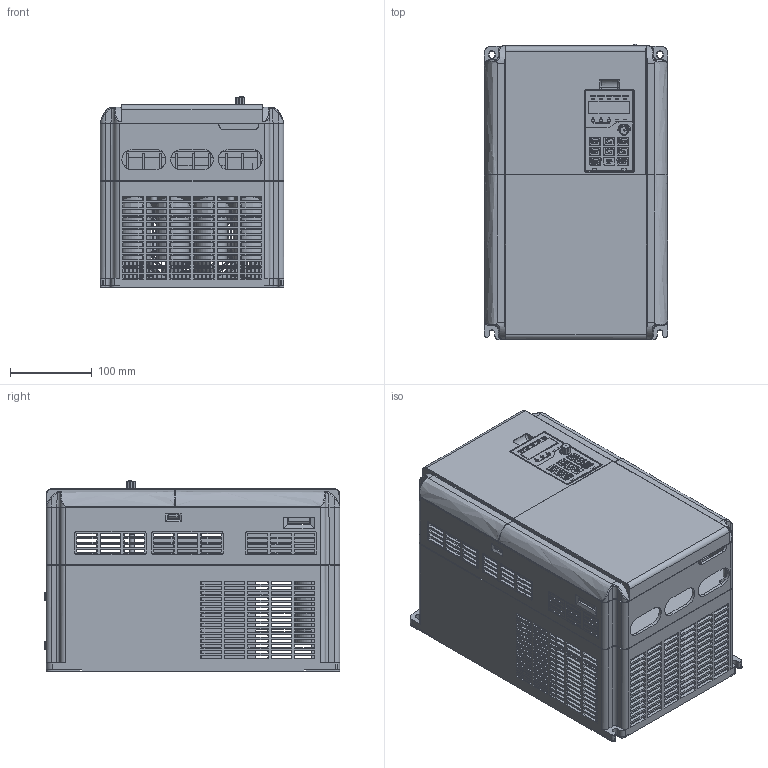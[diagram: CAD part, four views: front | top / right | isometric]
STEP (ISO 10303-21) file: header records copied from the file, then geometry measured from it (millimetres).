
FILE_DESCRIPTION (( 'STEP AP214' ), '1' );
FILE_NAME ('00-KC200-45KW ÍâÐÎ³ß´çÍ¼.STEP', '2024-05-28T09:36:37', ( '' ), ( '' ), 'SwSTEP 2.0', 'SolidWorks 2020', '' );
FILE_SCHEMA (( 'AUTOMOTIVE_DESIGN' ));
Length unit declared in the file: millimetre
Products named in the file (1): 00-KC200-45KW 俋倛喜渡芞
Bounding box: 225 x 362.15 x 233.53 mm (x, y, z)
Surface area: 1107328.8 mm2 (no closed solid volume)
Topology: 0 solids, 79 shells, 2808 faces, 13676 edges, 10866 vertices
Faces by surface type: plane 2027, bspline 319, cylinder 271, cone 191
Entity records: 196580 total; most frequent: CARTESIAN_POINT 67814, ORIENTED_EDGE 19966, DIRECTION 15374, EDGE_CURVE 13668, VERTEX_POINT 10866, VECTOR 7858, LINE 7858, B_SPLINE_CURVE_WITH_KNOTS 4460
